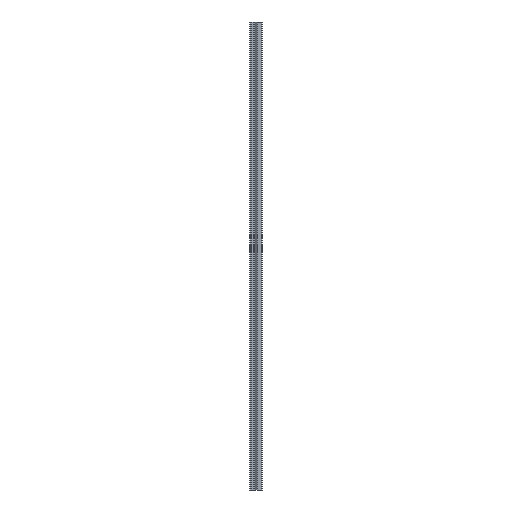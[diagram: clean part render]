
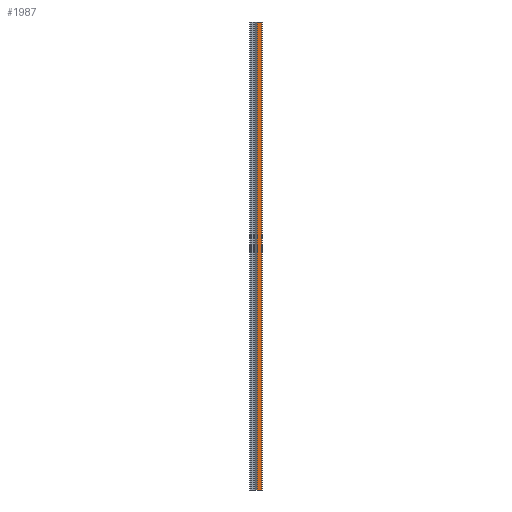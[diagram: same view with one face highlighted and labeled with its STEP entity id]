
A CAD part, left-side view. The second image highlights one B-rep face of the part: STEP entity #1987.
In plain terms, the highlighted planar face has unit normal (-1, 0, 0).
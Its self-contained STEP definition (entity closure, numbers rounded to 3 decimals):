
#75 = CARTESIAN_POINT ( 'NONE',  ( -11.5, 1.25, 350. ) ) ;
#82 = CARTESIAN_POINT ( 'NONE',  ( -11.5, 7.95, -350. ) ) ;
#152 = VERTEX_POINT ( 'NONE', #1477 ) ;
#272 = ORIENTED_EDGE ( 'NONE', *, *, #2239, .F. ) ;
#510 = DIRECTION ( 'NONE',  ( 0., 0., 1. ) ) ;
#514 = LINE ( 'NONE', #2832, #1363 ) ;
#671 = ORIENTED_EDGE ( 'NONE', *, *, #2067, .T. ) ;
#690 = VERTEX_POINT ( 'NONE', #2568 ) ;
#746 = VECTOR ( 'NONE', #789, 1000. ) ;
#789 = DIRECTION ( 'NONE',  ( 0., 0., 1. ) ) ;
#897 = VECTOR ( 'NONE', #2592, 1000. ) ;
#950 = CARTESIAN_POINT ( 'NONE',  ( -11.5, 19.2, 350. ) ) ;
#951 = VERTEX_POINT ( 'NONE', #82 ) ;
#964 = VERTEX_POINT ( 'NONE', #75 ) ;
#1059 = LINE ( 'NONE', #1746, #2069 ) ;
#1067 = FACE_OUTER_BOUND ( 'NONE', #2797, .T. ) ;
#1137 = DIRECTION ( 'NONE',  ( 0., -1., 0. ) ) ;
#1157 = PLANE ( 'NONE',  #1826 ) ;
#1363 = VECTOR ( 'NONE', #1137, 1000. ) ;
#1420 = DIRECTION ( 'NONE',  ( 1., 0., 0. ) ) ;
#1477 = CARTESIAN_POINT ( 'NONE',  ( -11.5, 7.95, 350. ) ) ;
#1740 = LINE ( 'NONE', #1771, #746 ) ;
#1746 = CARTESIAN_POINT ( 'NONE',  ( -11.5, 1.25, 350. ) ) ;
#1771 = CARTESIAN_POINT ( 'NONE',  ( -11.5, 7.95, -350. ) ) ;
#1826 = AXIS2_PLACEMENT_3D ( 'NONE', #3052, #1420, #2812 ) ;
#1918 = ORIENTED_EDGE ( 'NONE', *, *, #2987, .T. ) ;
#1987 = ADVANCED_FACE ( 'NONE', ( #1067 ), #1157, .F. ) ;
#2067 = EDGE_CURVE ( 'NONE', #951, #690, #514, .T. ) ;
#2069 = VECTOR ( 'NONE', #510, 1000. ) ;
#2182 = LINE ( 'NONE', #950, #897 ) ;
#2239 = EDGE_CURVE ( 'NONE', #152, #964, #2182, .T. ) ;
#2316 = ORIENTED_EDGE ( 'NONE', *, *, #2445, .F. ) ;
#2445 = EDGE_CURVE ( 'NONE', #951, #152, #1740, .T. ) ;
#2568 = CARTESIAN_POINT ( 'NONE',  ( -11.5, 1.25, -350. ) ) ;
#2592 = DIRECTION ( 'NONE',  ( 0., -1., 0. ) ) ;
#2797 = EDGE_LOOP ( 'NONE', ( #671, #1918, #272, #2316 ) ) ;
#2812 = DIRECTION ( 'NONE',  ( 0., 1., 0. ) ) ;
#2832 = CARTESIAN_POINT ( 'NONE',  ( -11.5, 19.2, -350. ) ) ;
#2987 = EDGE_CURVE ( 'NONE', #690, #964, #1059, .T. ) ;
#3052 = CARTESIAN_POINT ( 'NONE',  ( -11.5, 19.2, 350. ) ) ;
